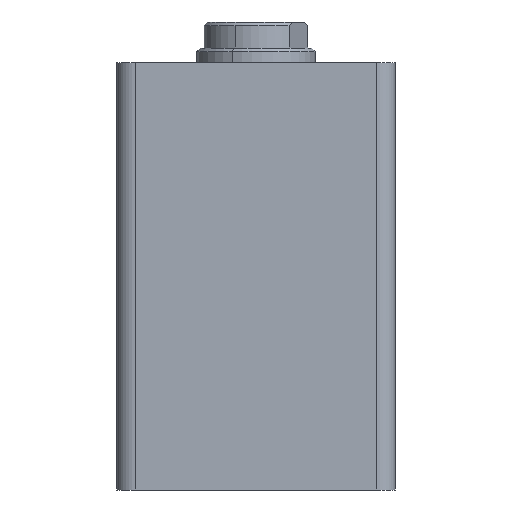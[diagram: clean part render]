
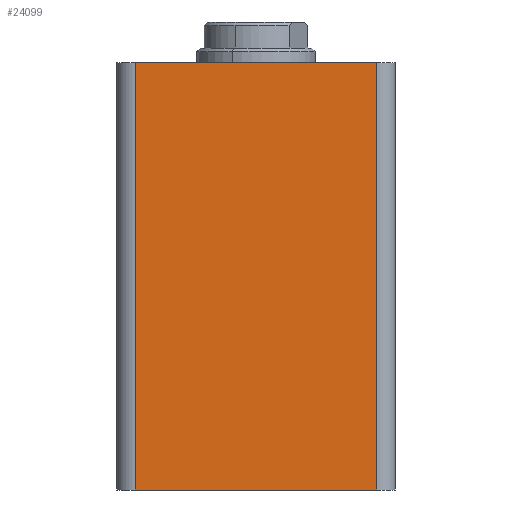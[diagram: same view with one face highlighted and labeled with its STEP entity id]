
A CAD part, front view. The second image highlights one B-rep face of the part: STEP entity #24099.
In plain terms, the highlighted planar face has unit normal (0, -1, 0).
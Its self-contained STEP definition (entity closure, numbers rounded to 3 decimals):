
#1057 = EDGE_LOOP ( 'NONE', ( #10673, #3727, #14615, #2085 ) ) ;
#1555 = LINE ( 'NONE', #7146, #5783 ) ;
#1561 = DIRECTION ( 'NONE',  ( 0., 0., -1. ) ) ;
#1712 = VECTOR ( 'NONE', #1561, 1000. ) ;
#2085 = ORIENTED_EDGE ( 'NONE', *, *, #5693, .T. ) ;
#3514 = CARTESIAN_POINT ( 'NONE',  ( 5., 0., 115. ) ) ;
#3727 = ORIENTED_EDGE ( 'NONE', *, *, #13128, .T. ) ;
#4624 = VERTEX_POINT ( 'NONE', #23442 ) ;
#4982 = VECTOR ( 'NONE', #15613, 1000. ) ;
#5001 = DIRECTION ( 'NONE',  ( 1., 0., 0. ) ) ;
#5693 = EDGE_CURVE ( 'NONE', #16599, #4624, #13356, .T. ) ;
#5783 = VECTOR ( 'NONE', #5001, 1000. ) ;
#6930 = VERTEX_POINT ( 'NONE', #23736 ) ;
#6981 = VECTOR ( 'NONE', #11962, 1000. ) ;
#7077 = DIRECTION ( 'NONE',  ( 0., 1., 0. ) ) ;
#7146 = CARTESIAN_POINT ( 'NONE',  ( 0., 0., 115. ) ) ;
#7886 = CARTESIAN_POINT ( 'NONE',  ( 70., 0., 115. ) ) ;
#9108 = VERTEX_POINT ( 'NONE', #21051 ) ;
#9647 = LINE ( 'NONE', #7886, #4982 ) ;
#10673 = ORIENTED_EDGE ( 'NONE', *, *, #12802, .T. ) ;
#11244 = CARTESIAN_POINT ( 'NONE',  ( 0., 0., 0. ) ) ;
#11962 = DIRECTION ( 'NONE',  ( 1., 0., 0. ) ) ;
#12802 = EDGE_CURVE ( 'NONE', #4624, #9108, #21613, .T. ) ;
#13128 = EDGE_CURVE ( 'NONE', #9108, #6930, #9647, .T. ) ;
#13356 = LINE ( 'NONE', #18945, #1712 ) ;
#14542 = FACE_OUTER_BOUND ( 'NONE', #1057, .T. ) ;
#14615 = ORIENTED_EDGE ( 'NONE', *, *, #24376, .F. ) ;
#15613 = DIRECTION ( 'NONE',  ( 0., 0., 1. ) ) ;
#16599 = VERTEX_POINT ( 'NONE', #3514 ) ;
#16715 = PLANE ( 'NONE',  #24846 ) ;
#18945 = CARTESIAN_POINT ( 'NONE',  ( 5., 0., 115. ) ) ;
#21051 = CARTESIAN_POINT ( 'NONE',  ( 70., 0., 0. ) ) ;
#21613 = LINE ( 'NONE', #11244, #6981 ) ;
#22563 = DIRECTION ( 'NONE',  ( 0., 0., 1. ) ) ;
#23442 = CARTESIAN_POINT ( 'NONE',  ( 5., 0., 0. ) ) ;
#23736 = CARTESIAN_POINT ( 'NONE',  ( 70., 0., 115. ) ) ;
#24099 = ADVANCED_FACE ( 'NONE', ( #14542 ), #16715, .F. ) ;
#24376 = EDGE_CURVE ( 'NONE', #16599, #6930, #1555, .T. ) ;
#24491 = CARTESIAN_POINT ( 'NONE',  ( 0., 0., 115. ) ) ;
#24846 = AXIS2_PLACEMENT_3D ( 'NONE', #24491, #7077, #22563 ) ;
